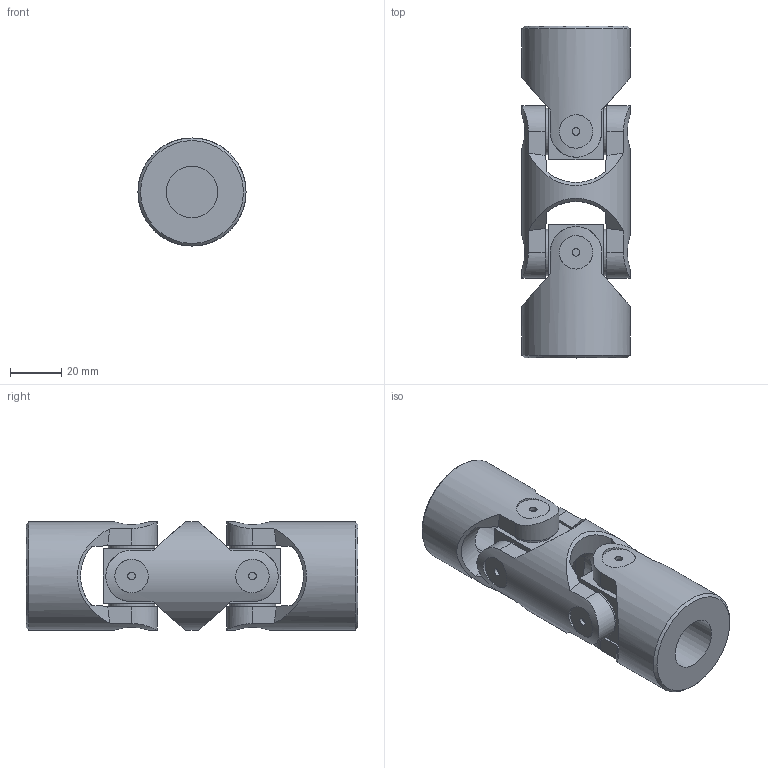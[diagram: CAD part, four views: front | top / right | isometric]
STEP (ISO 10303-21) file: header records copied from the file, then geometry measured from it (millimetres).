
FILE_DESCRIPTION(/* description */ (''),/* implementation_level */ '2;1');
FILE_NAME(/* name */ '\\SRV2016\Societa\Stefano\Disegni 3D\00Catalogo 3D\02Doppi GD-GBD\SG0D2000.stp',/* time_stamp */ '2021-11-23T12:25:07+01:00',/* author */ ('acquisti'),/* organization */ (''),/* preprocessor_version */ 'ST-DEVELOPER v15.6',/* originating_system */ 'Autodesk Inventor 2015',/* authorisation */ '');
FILE_SCHEMA (('AUTOMOTIVE_DESIGN { 1 0 10303 214 3 1 1 }'));
Length unit declared in the file: millimetre
Products named in the file (4): 3G MOD; 3G SFE; 3G MOS; Ø42_3GD-00_SG0D2000
Assembly tree (5 placements, depth 2):
  Ø42_3GD-00_SG0D2000
    3G MOD
    3G SFE  x2
    3G MOS  x2
Bounding box: 42 x 129 x 42 mm (x, y, z)
Volume: 117116.4 mm3; surface area: 34682.8 mm2
Topology: 5 solids, 5 shells, 161 faces, 377 edges, 246 vertices
Faces by surface type: plane 70, cylinder 65, cone 22, torus 4
Full cylindrical faces by diameter (mm): 3 x8, 18 x8, 20 x2, 22 x4, 42 x3
Entity records: 3760 total; most frequent: CARTESIAN_POINT 1316, ORIENTED_EDGE 482, DIRECTION 466, EDGE_CURVE 241, AXIS2_PLACEMENT_3D 209, VERTEX_POINT 171, EDGE_LOOP 152, FACE_OUTER_BOUND 112
